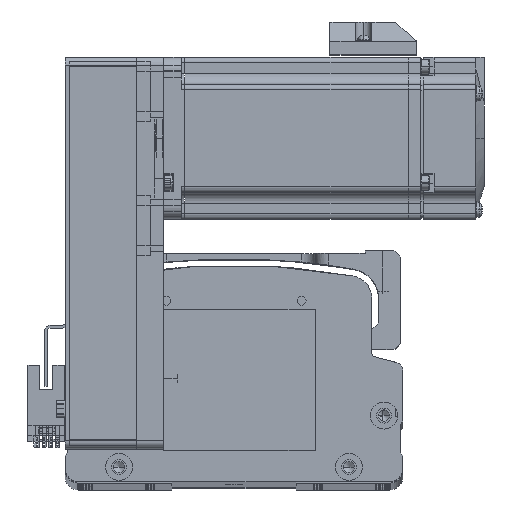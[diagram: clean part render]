
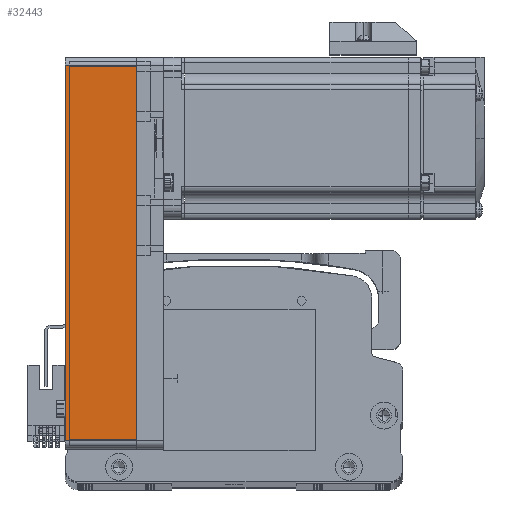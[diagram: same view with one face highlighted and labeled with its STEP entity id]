
A CAD part, top view. The second image highlights one B-rep face of the part: STEP entity #32443.
In plain terms, the highlighted planar face has unit normal (0, 0, 1) as drawn and (0, -1, 0) by its records, which use the part's own axes.
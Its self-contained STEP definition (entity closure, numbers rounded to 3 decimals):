
#2184 = VERTEX_POINT ( 'NONE', #4674 ) ;
#2424 = CARTESIAN_POINT ( 'NONE',  ( 69.5, -30., 26.5 ) ) ;
#3169 = VECTOR ( 'NONE', #42345, 1000. ) ;
#4674 = CARTESIAN_POINT ( 'NONE',  ( -69.5, -30., 0. ) ) ;
#4780 = PLANE ( 'NONE',  #42724 ) ;
#11455 = CARTESIAN_POINT ( 'NONE',  ( 72.5, -30., 26.5 ) ) ;
#13641 = ORIENTED_EDGE ( 'NONE', *, *, #66005, .F. ) ;
#17869 = EDGE_LOOP ( 'NONE', ( #70130, #50122, #13641, #52363 ) ) ;
#18660 = DIRECTION ( 'NONE',  ( 0., 0., -1. ) ) ;
#24191 = CARTESIAN_POINT ( 'NONE',  ( -69.5, -30., 26.5 ) ) ;
#24829 = LINE ( 'NONE', #2424, #60331 ) ;
#28884 = VECTOR ( 'NONE', #58288, 1000. ) ;
#28936 = CARTESIAN_POINT ( 'NONE',  ( 72.5, -30., 0. ) ) ;
#30371 = CARTESIAN_POINT ( 'NONE',  ( 69.5, -30., 0. ) ) ;
#31769 = CARTESIAN_POINT ( 'NONE',  ( 72.5, -30., 26.5 ) ) ;
#32443 = ADVANCED_FACE ( 'NONE', ( #39249 ), #4780, .F. ) ;
#36575 = VERTEX_POINT ( 'NONE', #30371 ) ;
#38490 = DIRECTION ( 'NONE',  ( -1., 0., 0. ) ) ;
#39249 = FACE_OUTER_BOUND ( 'NONE', #17869, .T. ) ;
#40215 = EDGE_CURVE ( 'NONE', #2184, #36575, #40864, .T. ) ;
#40864 = LINE ( 'NONE', #28936, #3169 ) ;
#42345 = DIRECTION ( 'NONE',  ( 1., 0., 0. ) ) ;
#42724 = AXIS2_PLACEMENT_3D ( 'NONE', #31769, #78532, #38490 ) ;
#44219 = VECTOR ( 'NONE', #18660, 1000. ) ;
#50122 = ORIENTED_EDGE ( 'NONE', *, *, #59597, .T. ) ;
#52363 = ORIENTED_EDGE ( 'NONE', *, *, #84219, .T. ) ;
#54956 = VERTEX_POINT ( 'NONE', #57814 ) ;
#57814 = CARTESIAN_POINT ( 'NONE',  ( 69.5, -30., 26.5 ) ) ;
#58288 = DIRECTION ( 'NONE',  ( 1., 0., 0. ) ) ;
#58709 = CARTESIAN_POINT ( 'NONE',  ( -69.5, -30., 26.5 ) ) ;
#59597 = EDGE_CURVE ( 'NONE', #36575, #54956, #24829, .T. ) ;
#60331 = VECTOR ( 'NONE', #82339, 1000. ) ;
#66005 = EDGE_CURVE ( 'NONE', #73005, #54956, #80160, .T. ) ;
#70130 = ORIENTED_EDGE ( 'NONE', *, *, #40215, .T. ) ;
#73005 = VERTEX_POINT ( 'NONE', #24191 ) ;
#78532 = DIRECTION ( 'NONE',  ( 0., 1., 0. ) ) ;
#79853 = LINE ( 'NONE', #58709, #44219 ) ;
#80160 = LINE ( 'NONE', #11455, #28884 ) ;
#82339 = DIRECTION ( 'NONE',  ( 0., 0., 1. ) ) ;
#84219 = EDGE_CURVE ( 'NONE', #73005, #2184, #79853, .T. ) ;
